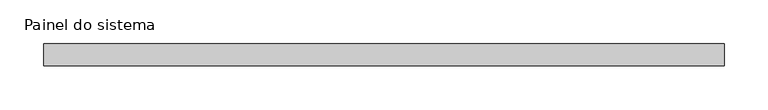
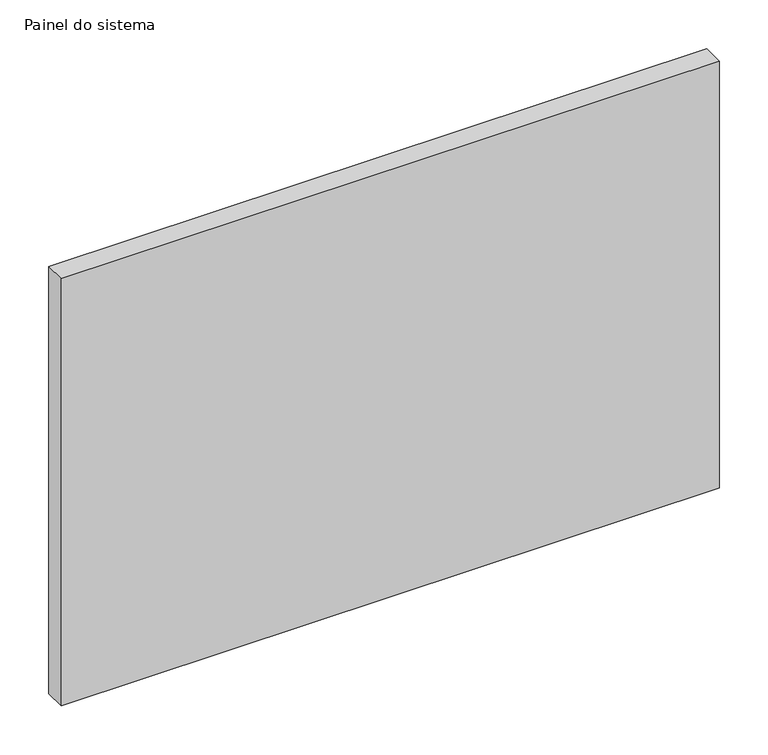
"""IFC4 building model written with IfcOpenShell, lengths in millimetres: plate geometry, Painel do sistema : Envidraçado."""

from ifc_helpers import new_model, si_unit, origin, origin_with_axes, place, context, project, spatial, polyline, outline, extrude, source, transform, mapped, element, save


def painel_do_sistema_86ce463c(model_context):
    return source(origin(), model_context, "Body", "SweptSolid", [
        extrude(outline(polyline([(387.7521688, 24.5), (-387.7521688, 24.5), (-387.7521688, 49.5), (387.7521688, 49.5), (387.7521688, 24.5)])), origin_with_axes(), (0.0, 0.0, 1.0), 532.5527297),
    ])


if __name__ == "__main__":
    model = new_model("IFC4")
    model_context = context("Model", 3, world=origin())
    ifc_project = project(units=[si_unit("LENGTHUNIT", "METRE", prefix="MILLI")], contexts=[model_context])
    site = spatial("IfcSite", under=ifc_project)
    building = spatial("IfcBuilding", under=site)
    placement = place(None, origin())
    painel_do_sistema_shape = painel_do_sistema_86ce463c(model_context)
    element("IfcPlate", 1, ObjectType="Painel do sistema : Envidraçado", at=placement, inside=building, context=model_context, shape_type="MappedRepresentation", body=[
        mapped(painel_do_sistema_shape, transform((0.0, 0.0, 0.0), x_axis=(1.0, 0.0, 0.0), y_axis=(0.0, 1.0, 0.0), z_axis=(0.0, 0.0, 1.0))),
    ])
    save(model, "model.ifc")
